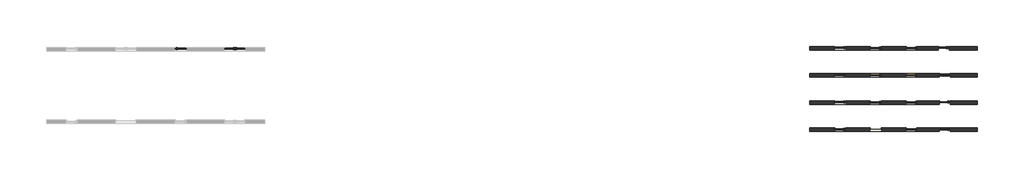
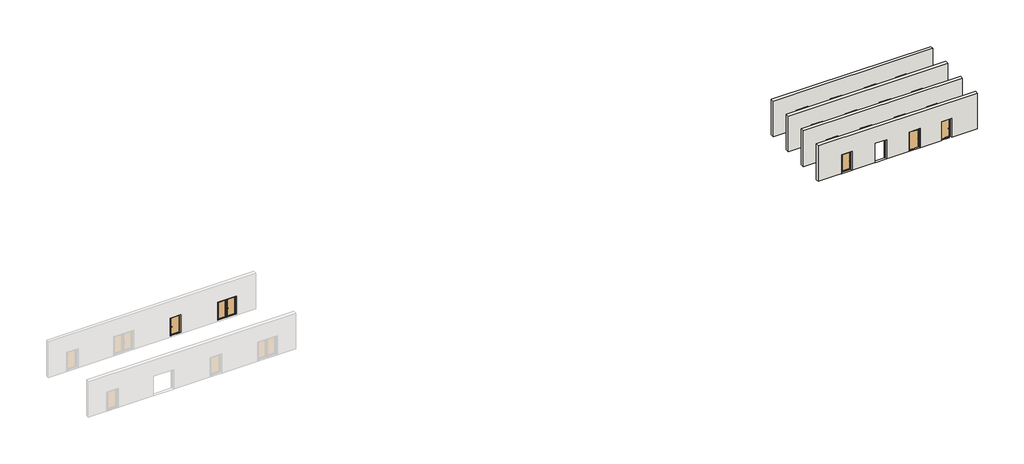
# One storey, part 2 of 2: 17 doors, 4 walls.
"""IFC4 building model written with IfcOpenShell, lengths in millimetres."""

from ifc_helpers import new_model, si_unit, origin, place, context, project, spatial, faceted_brep, transform, mapped, element, save
from components import door_eac2dd04, door_43a200b4, door_fae9e560, door_9f9e6a1d, door_a939d6f6, door_66f3c2dc, door_febc1c80, door_22224a55, door_e4422ea3, door_7a2a8935, door_3701fab0, door_3bcb3462, door_040fce94, door_be1d781f, door_1cca69b3, door_032f7541, door_b22b6475

model = new_model("IFC4")

# Units and contexts
model_context = context("Model", 3, world=origin())
ifc_project = project(units=[si_unit("LENGTHUNIT", "METRE", prefix="MILLI")], contexts=[model_context])

# Site, building, storey
site = spatial("IfcSite", under=ifc_project)
building = spatial("IfcBuilding", under=site)
storey = spatial("IfcBuildingStorey", under=building, Name="REY 01 - Overview Doors", Elevation=0.0)

# Doors
placement = place(None, origin())
door_shape = door_eac2dd04(model_context)
element("IfcDoor", 1, ObjectType="Reynaers_MasterLine 8_Door_Miter_Inward Opening_Single Vent : Reynaers_MasterLine 8_Door_Miter_Inward Opening_Single Vent", at=placement, inside=storey, context=model_context, shape_type="MappedRepresentation", body=[
    mapped(door_shape, transform((71021.8247656, 9484.5590232, 0.0), x_axis=(-1.0, 0.0, 0.0), y_axis=(0.0, -1.0, 0.0), z_axis=(0.0, 0.0, 1.0))),
])
door_2_shape = door_43a200b4(model_context)
element("IfcDoor", 2, ObjectType="Reynaers_MasterLine 8_Door_Miter_Inward Opening_Single Vent : Reynaers_MasterLine 8_Door_Miter_Inward Opening_Single Vent", at=placement, inside=storey, context=model_context, shape_type="MappedRepresentation", body=[
    mapped(door_2_shape, transform((71021.8247656, 6734.5590232, 0.0), x_axis=(-1.0, 0.0, 0.0), y_axis=(0.0, -1.0, 0.0), z_axis=(0.0, 0.0, 1.0))),
])
door_3_shape = door_fae9e560(model_context)
element("IfcDoor", 3, ObjectType="Reynaers_MasterLine 8_Door_Miter_Inward Opening_Single Vent : Reynaers_MasterLine 8_Door_Miter_Inward Opening_Single Vent", at=placement, inside=storey, context=model_context, shape_type="MappedRepresentation", body=[
    mapped(door_3_shape, transform((71021.8247656, 3984.5590232, 0.0), x_axis=(-1.0, 0.0, 0.0), y_axis=(0.0, -1.0, 0.0), z_axis=(0.0, 0.0, 1.0))),
])
door_4_shape = door_9f9e6a1d(model_context)
element("IfcDoor", 4, ObjectType="Reynaers_MasterLine 8_Door_Miter_Inward Opening_Single Vent : Reynaers_MasterLine 8_Door_Miter_Inward Opening_Single Vent", at=placement, inside=storey, context=model_context, shape_type="MappedRepresentation", body=[
    mapped(door_4_shape, transform((71021.8247656, 1234.5590232, 0.0), x_axis=(-1.0, 0.0, 0.0), y_axis=(0.0, -1.0, 0.0), z_axis=(0.0, 0.0, 1.0))),
])
door_5_shape = door_a939d6f6(model_context)
element("IfcDoor", 5, ObjectType="Reynaers_MasterLine 8_Door_Miter_Outward Opening_Double Vent : Reynaers_MasterLine 8_Door_Miter_Outward Opening_Double Vent", at=placement, inside=storey, context=model_context, shape_type="MappedRepresentation", body=[
    mapped(door_5_shape, transform((9971.8247656, 9435.7590232, 0.0), x_axis=(1.0, 0.0, 0.0), y_axis=(0.0, 1.0, 0.0), z_axis=(0.0, 0.0, 1.0))),
])
door_6_shape = door_66f3c2dc(model_context)
element("IfcDoor", 6, ObjectType="Reynaers_MasterLine 8_Door_Miter_Outward Opening_Single Vent : Reynaers_MasterLine 8_Door_Miter_Outward Opening_Single Vent", at=placement, inside=storey, context=model_context, shape_type="MappedRepresentation", body=[
    mapped(door_6_shape, transform((4521.8247656, 9425.7590232, 0.0), x_axis=(1.0, 0.0, 0.0), y_axis=(0.0, 1.0, 0.0), z_axis=(0.0, 0.0, 1.0))),
])
door_7_shape = door_febc1c80(model_context)
element("IfcDoor", 7, ObjectType="Reynaers_MasterLine 8_Door_Panel_Inward Opening_Single Vent_Double Sided : Reynaers_MasterLine 8_Door_Panel_Inward Opening_Single Vent_Double Sided", at=placement, inside=storey, context=model_context, shape_type="MappedRepresentation", body=[
    mapped(door_7_shape, transform((78221.8247656, 9535.7590232, 0.0), x_axis=(1.0, 0.0, 0.0), y_axis=(0.0, 1.0, 0.0), z_axis=(0.0, 0.0, 1.0))),
])
door_8_shape = door_22224a55(model_context)
element("IfcDoor", 8, ObjectType="Reynaers_MasterLine 8_Door_Panel_Inward Opening_Single Vent_Double Sided : Reynaers_MasterLine 8_Door_Panel_Inward Opening_Single Vent_Double Sided", at=placement, inside=storey, context=model_context, shape_type="MappedRepresentation", body=[
    mapped(door_8_shape, transform((78221.8247656, 6785.7590232, 0.0), x_axis=(1.0, 0.0, 0.0), y_axis=(0.0, 1.0, 0.0), z_axis=(0.0, 0.0, 1.0))),
])
door_9_shape = door_e4422ea3(model_context)
element("IfcDoor", 9, ObjectType="Reynaers_MasterLine 8_Door_Panel_Inward Opening_Single Vent_Double Sided : Reynaers_MasterLine 8_Door_Panel_Inward Opening_Single Vent_Double Sided", at=placement, inside=storey, context=model_context, shape_type="MappedRepresentation", body=[
    mapped(door_9_shape, transform((78221.8247656, 4035.7590232, 0.0), x_axis=(1.0, 0.0, 0.0), y_axis=(0.0, 1.0, 0.0), z_axis=(0.0, 0.0, 1.0))),
])
door_10_shape = door_7a2a8935(model_context)
element("IfcDoor", 10, ObjectType="Reynaers_MasterLine 8_Door_Panel_Inward Opening_Single Vent_Double Sided : Reynaers_MasterLine 8_Door_Panel_Inward Opening_Single Vent_Double Sided", at=placement, inside=storey, context=model_context, shape_type="MappedRepresentation", body=[
    mapped(door_10_shape, transform((78221.8247656, 1285.7590232, 0.0), x_axis=(1.0, 0.0, 0.0), y_axis=(0.0, 1.0, 0.0), z_axis=(0.0, 0.0, 1.0))),
])
door_11_shape = door_3701fab0(model_context)
element("IfcDoor", 11, ObjectType="Reynaers_MasterLine 8_Door_Pivot_Inward Opening_Single Vent_Glass : Reynaers_MasterLine 8_Door_Pivot_Inward Opening_Single Vent_Glass", at=placement, inside=storey, context=model_context, shape_type="MappedRepresentation", body=[
    mapped(door_11_shape, transform((81571.8247656, 6785.7590232, 0.0), x_axis=(-1.0, 0.0, 0.0), y_axis=(0.0, -1.0, 0.0), z_axis=(0.0, 0.0, 1.0))),
])
door_12_shape = door_3bcb3462(model_context)
element("IfcDoor", 12, ObjectType="Reynaers_MasterLine 8_Door_Pivot_Inward Opening_Single Vent_Glass : Reynaers_MasterLine 8_Door_Pivot_Inward Opening_Single Vent_Glass", at=placement, inside=storey, context=model_context, shape_type="MappedRepresentation", body=[
    mapped(door_12_shape, transform((81471.8247656, 9535.7590232, 0.0), x_axis=(-1.0, 0.0, 0.0), y_axis=(0.0, -1.0, 0.0), z_axis=(0.0, 0.0, 1.0))),
])
door_13_shape = door_040fce94(model_context)
element("IfcDoor", 13, ObjectType="Reynaers_MasterLine 8_Door_Pivot_Inward Opening_Single Vent_Panel : Reynaers_MasterLine 8_Door_Pivot_Inward Opening_Single Vent_Panel", at=placement, inside=storey, context=model_context, shape_type="MappedRepresentation", body=[
    mapped(door_13_shape, transform((81571.8247656, 4088.7590232, 0.0), x_axis=(-1.0, 0.0, 0.0), y_axis=(0.0, -1.0, 0.0), z_axis=(0.0, 0.0, 1.0))),
])
door_14_shape = door_be1d781f(model_context)
element("IfcDoor", 14, ObjectType="Reynaers_MasterLine 8_Door_Pivot_Inward Opening_Single Vent_Panel : Reynaers_MasterLine 8_Door_Pivot_Inward Opening_Single Vent_Panel", at=placement, inside=storey, context=model_context, shape_type="MappedRepresentation", body=[
    mapped(door_14_shape, transform((81571.8247656, 1338.7590232, 0.0), x_axis=(-1.0, 0.0, 0.0), y_axis=(0.0, -1.0, 0.0), z_axis=(0.0, 0.0, 1.0))),
])
door_15_shape = door_1cca69b3(model_context)
element("IfcDoor", 15, ObjectType="Reynaers_MasterLine 8_Door_Plinth_Inward Opening_Single Vent : Reynaers_MasterLine 8_Door_Plinth_Inward Opening_Single Vent", at=placement, inside=storey, context=model_context, shape_type="MappedRepresentation", body=[
    mapped(door_15_shape, transform((74621.8247656, 9524.5590232, 0.0), x_axis=(1.0, 0.0, 0.0), y_axis=(0.0, 1.0, 0.0), z_axis=(0.0, 0.0, 1.0))),
])
door_16_shape = door_032f7541(model_context)
element("IfcDoor", 16, ObjectType="Reynaers_MasterLine 8_Door_Plinth_Inward Opening_Single Vent : Reynaers_MasterLine 8_Door_Plinth_Inward Opening_Single Vent", at=placement, inside=storey, context=model_context, shape_type="MappedRepresentation", body=[
    mapped(door_16_shape, transform((74621.8247656, 6774.5590232, 0.0), x_axis=(1.0, 0.0, 0.0), y_axis=(0.0, 1.0, 0.0), z_axis=(0.0, 0.0, 1.0))),
])
door_17_shape = door_b22b6475(model_context)
element("IfcDoor", 17, ObjectType="Reynaers_MasterLine 8_Door_Plinth_Inward Opening_Single Vent : Reynaers_MasterLine 8_Door_Plinth_Inward Opening_Single Vent", at=placement, inside=storey, context=model_context, shape_type="MappedRepresentation", body=[
    mapped(door_17_shape, transform((74621.8247656, 4024.5590232, 0.0), x_axis=(1.0, 0.0, 0.0), y_axis=(0.0, 1.0, 0.0), z_axis=(0.0, 0.0, 1.0))),
])

# Walls
element("IfcWall", 18, ObjectType="21_SPM_90-30-80-140-10", at=placement, inside=storey, context=model_context, shape_type="Brep", body=[
    faceted_brep([(84871.8247656, 6610.7590232, 0.0), (84871.8247656, 6610.7590232, 4000.0), (67971.8247656, 6610.7590232, 4000.0), (67971.8247656, 6610.7590232, 0.0), (81021.8247656, 6610.7590232, 0.0), (81021.8247656, 6610.7590232, 2150.0), (82121.8247656, 6610.7590232, 2150.0), (82121.8247656, 6610.7590232, 0.0), (70421.8247656, 6610.7590232, 2150.0), (71621.8247656, 6610.7590232, 2150.0), (71621.8247656, 6610.7590232, 1.0), (70421.8247656, 6610.7590232, 1.0), (74021.8247656, 6610.7590232, 2150.0), (75221.8247656, 6610.7590232, 2150.0), (75221.8247656, 6610.7590232, 1.0), (74021.8247656, 6610.7590232, 1.0), (77621.8247656, 6610.7590232, 2150.0), (78821.8247656, 6610.7590232, 2150.0), (78821.8247656, 6610.7590232, 1.0), (77621.8247656, 6610.7590232, 1.0), (84871.8247656, 6960.7590232, 4000.0), (84871.8247656, 6960.7590232, 0.0), (82071.8247656, 6960.7590232, 0.0), (82071.8247656, 6960.7590232, 2100.0), (81071.8247656, 6960.7590232, 2100.0), (81071.8247656, 6960.7590232, 0.0), (78771.8247656, 6960.7590232, 0.0), (78771.8247656, 6960.7590232, 2100.0), (77671.8247656, 6960.7590232, 2100.0), (77671.8247656, 6960.7590232, 0.0), (75171.8247656, 6960.7590232, 0.0), (75171.8247656, 6960.7590232, 2100.0), (74071.8247656, 6960.7590232, 2100.0), (74071.8247656, 6960.7590232, 0.0), (71571.8247656, 6960.7590232, 0.0), (71571.8247656, 6960.7590232, 2100.0), (70471.8247656, 6960.7590232, 2100.0), (70471.8247656, 6960.7590232, 0.0), (67971.8247656, 6960.7590232, 0.0), (67971.8247656, 6960.7590232, 4000.0), (82121.8247656, 6870.7590232, 0.0), (82071.8247656, 6870.7590232, 0.0), (70471.8247656, 6870.7590232, 0.0), (71571.8247656, 6870.7590232, 0.0), (74071.8247656, 6833.2590232, 0.0), (75171.8247656, 6833.2590232, 0.0), (77671.8247656, 6833.2590232, 0.0), (78771.8247656, 6833.2590232, 0.0), (81071.8247656, 6870.7590232, 0.0), (81021.8247656, 6870.7590232, 0.0), (71571.8247656, 6870.7590232, 2100.0), (70471.8247656, 6870.7590232, 2100.0), (71571.8247656, 6870.7590232, 1.0), (70471.8247656, 6870.7590232, 1.0), (70421.8247656, 6870.7590232, 2150.0), (71621.8247656, 6870.7590232, 2150.0), (70421.8247656, 6870.7590232, 1.0), (71621.8247656, 6870.7590232, 1.0), (75171.8247656, 6833.2590232, 2100.0), (74071.8247656, 6833.2590232, 2100.0), (74071.8247656, 6833.2590232, 1.0), (75171.8247656, 6833.2590232, 1.0), (75221.8247656, 6833.2590232, 2150.0), (74021.8247656, 6833.2590232, 2150.0), (74021.8247656, 6833.2590232, 1.0), (75221.8247656, 6833.2590232, 1.0), (77671.8247656, 6833.2590232, 2100.0), (78771.8247656, 6833.2590232, 2100.0), (77671.8247656, 6833.2590232, 1.0), (78771.8247656, 6833.2590232, 1.0), (77621.8247656, 6833.2590232, 2150.0), (78821.8247656, 6833.2590232, 2150.0), (77621.8247656, 6833.2590232, 1.0), (78821.8247656, 6833.2590232, 1.0), (82071.8247656, 6870.7590232, 2100.0), (81071.8247656, 6870.7590232, 2100.0), (81021.8247656, 6870.7590232, 2150.0), (82121.8247656, 6870.7590232, 2150.0)], [[[0, 1, 2, 3, 4, 5, 6, 7], [8, 9, 10, 11], [12, 13, 14, 15], [16, 17, 18, 19]], [[20, 21, 22, 23, 24, 25, 26, 27, 28, 29, 30, 31, 32, 33, 34, 35, 36, 37, 38, 39]], [[21, 0, 7, 40, 41, 22]], [[3, 38, 37, 42, 43, 34, 33, 44, 45, 30, 29, 46, 47, 26, 25, 48, 49, 4]], [[1, 0, 21, 20]], [[2, 1, 20, 39]], [[3, 2, 39, 38]], [[35, 50, 51, 36]], [[50, 35, 34, 43, 52]], [[52, 43, 42, 53]], [[36, 51, 53, 42, 37]], [[54, 55, 9, 8]], [[52, 53, 56, 11, 10, 57]], [[51, 50, 52, 57, 55, 54, 56, 53]], [[9, 55, 57, 10]], [[54, 8, 11, 56]], [[31, 58, 59, 32]], [[32, 59, 60, 44, 33]], [[44, 60, 61, 45]], [[58, 31, 30, 45, 61]], [[62, 13, 12, 63]], [[61, 60, 64, 15, 14, 65]], [[59, 58, 61, 65, 62, 63, 64, 60]], [[63, 12, 15, 64]], [[13, 62, 65, 14]], [[66, 28, 27, 67]], [[28, 66, 68, 46, 29]], [[46, 68, 69, 47]], [[67, 27, 26, 47, 69]], [[70, 71, 17, 16]], [[69, 68, 72, 19, 18, 73]], [[66, 67, 69, 73, 71, 70, 72, 68]], [[70, 16, 19, 72]], [[17, 71, 73, 18]], [[23, 74, 75, 24]], [[74, 23, 22, 41]], [[24, 75, 48, 25]], [[76, 77, 6, 5]], [[75, 74, 41, 40, 77, 76, 49, 48]], [[6, 77, 40, 7]], [[76, 5, 4, 49]]]),
])
element("IfcWall", 19, ObjectType="21_SPM_90-30-80-140-10", at=placement, inside=storey, context=model_context, shape_type="Brep", body=[
    faceted_brep([(84871.8247656, 9360.7590232, 0.0), (84871.8247656, 9360.7590232, 4000.0), (67971.8247656, 9360.7590232, 4000.0), (67971.8247656, 9360.7590232, 0.0), (80921.8247656, 9360.7590232, 0.0), (80921.8247656, 9360.7590232, 2150.0), (82021.8247656, 9360.7590232, 2150.0), (82021.8247656, 9360.7590232, 0.0), (70421.8247656, 9360.7590232, 2150.0), (71621.8247656, 9360.7590232, 2150.0), (71621.8247656, 9360.7590232, 1.0), (70421.8247656, 9360.7590232, 1.0), (74021.8247656, 9360.7590232, 2150.0), (75221.8247656, 9360.7590232, 2150.0), (75221.8247656, 9360.7590232, 1.0), (74021.8247656, 9360.7590232, 1.0), (77621.8247656, 9360.7590232, 2150.0), (78821.8247656, 9360.7590232, 2150.0), (78821.8247656, 9360.7590232, 1.0), (77621.8247656, 9360.7590232, 1.0), (84871.8247656, 9710.7590232, 4000.0), (84871.8247656, 9710.7590232, 0.0), (81971.8247656, 9710.7590232, 0.0), (81971.8247656, 9710.7590232, 2100.0), (80971.8247656, 9710.7590232, 2100.0), (80971.8247656, 9710.7590232, 0.0), (78771.8247656, 9710.7590232, 0.0), (78771.8247656, 9710.7590232, 2100.0), (77671.8247656, 9710.7590232, 2100.0), (77671.8247656, 9710.7590232, 0.0), (75171.8247656, 9710.7590232, 0.0), (75171.8247656, 9710.7590232, 2100.0), (74071.8247656, 9710.7590232, 2100.0), (74071.8247656, 9710.7590232, 0.0), (71571.8247656, 9710.7590232, 0.0), (71571.8247656, 9710.7590232, 2100.0), (70471.8247656, 9710.7590232, 2100.0), (70471.8247656, 9710.7590232, 0.0), (67971.8247656, 9710.7590232, 0.0), (67971.8247656, 9710.7590232, 4000.0), (82021.8247656, 9620.7590232, 0.0), (81971.8247656, 9620.7590232, 0.0), (70471.8247656, 9620.7590232, 0.0), (71571.8247656, 9620.7590232, 0.0), (74071.8247656, 9583.2590232, 0.0), (75171.8247656, 9583.2590232, 0.0), (77671.8247656, 9583.2590232, 0.0), (78771.8247656, 9583.2590232, 0.0), (80971.8247656, 9620.7590232, 0.0), (80921.8247656, 9620.7590232, 0.0), (71571.8247656, 9620.7590232, 2100.0), (70471.8247656, 9620.7590232, 2100.0), (71571.8247656, 9620.7590232, 1.0), (70471.8247656, 9620.7590232, 1.0), (70421.8247656, 9620.7590232, 2150.0), (71621.8247656, 9620.7590232, 2150.0), (70421.8247656, 9620.7590232, 1.0), (71621.8247656, 9620.7590232, 1.0), (75171.8247656, 9583.2590232, 2100.0), (74071.8247656, 9583.2590232, 2100.0), (74071.8247656, 9583.2590232, 1.0), (75171.8247656, 9583.2590232, 1.0), (75221.8247656, 9583.2590232, 2150.0), (74021.8247656, 9583.2590232, 2150.0), (74021.8247656, 9583.2590232, 1.0), (75221.8247656, 9583.2590232, 1.0), (78771.8247656, 9583.2590232, 2100.0), (77671.8247656, 9583.2590232, 2100.0), (77671.8247656, 9583.2590232, 1.0), (78771.8247656, 9583.2590232, 1.0), (78821.8247656, 9583.2590232, 2150.0), (77621.8247656, 9583.2590232, 2150.0), (77621.8247656, 9583.2590232, 1.0), (78821.8247656, 9583.2590232, 1.0), (81971.8247656, 9620.7590232, 2100.0), (80971.8247656, 9620.7590232, 2100.0), (80921.8247656, 9620.7590232, 2150.0), (82021.8247656, 9620.7590232, 2150.0)], [[[0, 1, 2, 3, 4, 5, 6, 7], [8, 9, 10, 11], [12, 13, 14, 15], [16, 17, 18, 19]], [[20, 21, 22, 23, 24, 25, 26, 27, 28, 29, 30, 31, 32, 33, 34, 35, 36, 37, 38, 39]], [[21, 0, 7, 40, 41, 22]], [[3, 38, 37, 42, 43, 34, 33, 44, 45, 30, 29, 46, 47, 26, 25, 48, 49, 4]], [[1, 0, 21, 20]], [[2, 1, 20, 39]], [[3, 2, 39, 38]], [[35, 50, 51, 36]], [[50, 35, 34, 43, 52]], [[52, 43, 42, 53]], [[36, 51, 53, 42, 37]], [[54, 55, 9, 8]], [[52, 53, 56, 11, 10, 57]], [[51, 50, 52, 57, 55, 54, 56, 53]], [[9, 55, 57, 10]], [[54, 8, 11, 56]], [[31, 58, 59, 32]], [[32, 59, 60, 44, 33]], [[44, 60, 61, 45]], [[58, 31, 30, 45, 61]], [[62, 13, 12, 63]], [[61, 60, 64, 15, 14, 65]], [[59, 58, 61, 65, 62, 63, 64, 60]], [[63, 12, 15, 64]], [[13, 62, 65, 14]], [[27, 66, 67, 28]], [[28, 67, 68, 46, 29]], [[46, 68, 69, 47]], [[66, 27, 26, 47, 69]], [[70, 17, 16, 71]], [[69, 68, 72, 19, 18, 73]], [[67, 66, 69, 73, 70, 71, 72, 68]], [[71, 16, 19, 72]], [[17, 70, 73, 18]], [[23, 74, 75, 24]], [[74, 23, 22, 41]], [[24, 75, 48, 25]], [[76, 77, 6, 5]], [[75, 74, 41, 40, 77, 76, 49, 48]], [[6, 77, 40, 7]], [[76, 5, 4, 49]]]),
])
element("IfcWall", 20, ObjectType="21_SPM_90-30-80-140-10", at=placement, inside=storey, context=model_context, shape_type="Brep", body=[
    faceted_brep([(84871.8247656, 3860.7590232, 0.0), (84871.8247656, 3860.7590232, 4000.0), (67971.8247656, 3860.7590232, 4000.0), (67971.8247656, 3860.7590232, 0.0), (81021.8247656, 3860.7590232, 0.0), (81021.8247656, 3860.7590232, 2150.0), (82121.8247656, 3860.7590232, 2150.0), (82121.8247656, 3860.7590232, 0.0), (70421.8247656, 3860.7590232, 2150.0), (71621.8247656, 3860.7590232, 2150.0), (71621.8247656, 3860.7590232, 1.0), (70421.8247656, 3860.7590232, 1.0), (74021.8247656, 3860.7590232, 2150.0), (75221.8247656, 3860.7590232, 2150.0), (75221.8247656, 3860.7590232, 1.0), (74021.8247656, 3860.7590232, 1.0), (77621.8247656, 3860.7590232, 2150.0), (78821.8247656, 3860.7590232, 2150.0), (78821.8247656, 3860.7590232, 1.0), (77621.8247656, 3860.7590232, 1.0), (84871.8247656, 4210.7590232, 4000.0), (84871.8247656, 4210.7590232, 0.0), (82071.8247656, 4210.7590232, 0.0), (82071.8247656, 4210.7590232, 2100.0), (81071.8247656, 4210.7590232, 2100.0), (81071.8247656, 4210.7590232, 0.0), (78771.8247656, 4210.7590232, 0.0), (78771.8247656, 4210.7590232, 2100.0), (77671.8247656, 4210.7590232, 2100.0), (77671.8247656, 4210.7590232, 0.0), (75171.8247656, 4210.7590232, 0.0), (75171.8247656, 4210.7590232, 2100.0), (74071.8247656, 4210.7590232, 2100.0), (74071.8247656, 4210.7590232, 0.0), (71571.8247656, 4210.7590232, 0.0), (71571.8247656, 4210.7590232, 2100.0), (70471.8247656, 4210.7590232, 2100.0), (70471.8247656, 4210.7590232, 0.0), (67971.8247656, 4210.7590232, 0.0), (67971.8247656, 4210.7590232, 4000.0), (82121.8247656, 4120.7590232, 0.0), (82071.8247656, 4120.7590232, 0.0), (70471.8247656, 4120.7590232, 0.0), (71571.8247656, 4120.7590232, 0.0), (74071.8247656, 4083.2590232, 0.0), (75171.8247656, 4083.2590232, 0.0), (77671.8247656, 4083.2590232, 0.0), (78771.8247656, 4083.2590232, 0.0), (81071.8247656, 4120.7590232, 0.0), (81021.8247656, 4120.7590232, 0.0), (71571.8247656, 4120.7590232, 2100.0), (70471.8247656, 4120.7590232, 2100.0), (71571.8247656, 4120.7590232, 1.0), (70471.8247656, 4120.7590232, 1.0), (70421.8247656, 4120.7590232, 2150.0), (71621.8247656, 4120.7590232, 2150.0), (70421.8247656, 4120.7590232, 1.0), (71621.8247656, 4120.7590232, 1.0), (75171.8247656, 4083.2590232, 2100.0), (74071.8247656, 4083.2590232, 2100.0), (74071.8247656, 4083.2590232, 1.0), (75171.8247656, 4083.2590232, 1.0), (75221.8247656, 4083.2590232, 2150.0), (74021.8247656, 4083.2590232, 2150.0), (74021.8247656, 4083.2590232, 1.0), (75221.8247656, 4083.2590232, 1.0), (78771.8247656, 4083.2590232, 2100.0), (77671.8247656, 4083.2590232, 2100.0), (77671.8247656, 4083.2590232, 1.0), (78771.8247656, 4083.2590232, 1.0), (78821.8247656, 4083.2590232, 2150.0), (77621.8247656, 4083.2590232, 2150.0), (77621.8247656, 4083.2590232, 1.0), (78821.8247656, 4083.2590232, 1.0), (82071.8247656, 4120.7590232, 2100.0), (81071.8247656, 4120.7590232, 2100.0), (81021.8247656, 4120.7590232, 2150.0), (82121.8247656, 4120.7590232, 2150.0)], [[[0, 1, 2, 3, 4, 5, 6, 7], [8, 9, 10, 11], [12, 13, 14, 15], [16, 17, 18, 19]], [[20, 21, 22, 23, 24, 25, 26, 27, 28, 29, 30, 31, 32, 33, 34, 35, 36, 37, 38, 39]], [[21, 0, 7, 40, 41, 22]], [[3, 38, 37, 42, 43, 34, 33, 44, 45, 30, 29, 46, 47, 26, 25, 48, 49, 4]], [[1, 0, 21, 20]], [[2, 1, 20, 39]], [[3, 2, 39, 38]], [[35, 50, 51, 36]], [[50, 35, 34, 43, 52]], [[52, 43, 42, 53]], [[36, 51, 53, 42, 37]], [[54, 55, 9, 8]], [[52, 53, 56, 11, 10, 57]], [[51, 50, 52, 57, 55, 54, 56, 53]], [[9, 55, 57, 10]], [[54, 8, 11, 56]], [[31, 58, 59, 32]], [[32, 59, 60, 44, 33]], [[44, 60, 61, 45]], [[58, 31, 30, 45, 61]], [[62, 13, 12, 63]], [[61, 60, 64, 15, 14, 65]], [[59, 58, 61, 65, 62, 63, 64, 60]], [[63, 12, 15, 64]], [[13, 62, 65, 14]], [[27, 66, 67, 28]], [[28, 67, 68, 46, 29]], [[46, 68, 69, 47]], [[66, 27, 26, 47, 69]], [[70, 17, 16, 71]], [[69, 68, 72, 19, 18, 73]], [[67, 66, 69, 73, 70, 71, 72, 68]], [[71, 16, 19, 72]], [[17, 70, 73, 18]], [[23, 74, 75, 24]], [[74, 23, 22, 41]], [[24, 75, 48, 25]], [[76, 77, 6, 5]], [[75, 74, 41, 40, 77, 76, 49, 48]], [[6, 77, 40, 7]], [[76, 5, 4, 49]]]),
])
element("IfcWall", 21, ObjectType="21_SPM_90-30-80-140-10", at=placement, inside=storey, context=model_context, shape_type="Brep", body=[
    faceted_brep([(84871.8247656, 1110.7590232, 0.0), (84871.8247656, 1110.7590232, 4000.0), (67971.8247656, 1110.7590232, 4000.0), (67971.8247656, 1110.7590232, 0.0), (81021.8247656, 1110.7590232, 0.0), (81021.8247656, 1110.7590232, 2150.0), (82121.8247656, 1110.7590232, 2150.0), (82121.8247656, 1110.7590232, 0.0), (71571.8247656, 1110.7590232, 1.0), (70471.8247656, 1110.7590232, 1.0), (70471.8247656, 1110.7590232, 2100.0), (71571.8247656, 1110.7590232, 2100.0), (74021.8247656, 1110.7590232, 2150.0), (75221.8247656, 1110.7590232, 2150.0), (75221.8247656, 1110.7590232, 1.0), (74021.8247656, 1110.7590232, 1.0), (77621.8247656, 1110.7590232, 2150.0), (78821.8247656, 1110.7590232, 2150.0), (78821.8247656, 1110.7590232, 1.0), (77621.8247656, 1110.7590232, 1.0), (84871.8247656, 1460.7590232, 4000.0), (84871.8247656, 1460.7590232, 0.0), (82071.8247656, 1460.7590232, 0.0), (82071.8247656, 1460.7590232, 2100.0), (81071.8247656, 1460.7590232, 2100.0), (81071.8247656, 1460.7590232, 0.0), (78771.8247656, 1460.7590232, 0.0), (78771.8247656, 1460.7590232, 2100.0), (77671.8247656, 1460.7590232, 2100.0), (77671.8247656, 1460.7590232, 0.0), (75171.8247656, 1460.7590232, 0.0), (75171.8247656, 1460.7590232, 2100.0), (74071.8247656, 1460.7590232, 2100.0), (74071.8247656, 1460.7590232, 0.0), (71571.8247656, 1460.7590232, 0.0), (71571.8247656, 1460.7590232, 2100.0), (70471.8247656, 1460.7590232, 2100.0), (70471.8247656, 1460.7590232, 0.0), (67971.8247656, 1460.7590232, 0.0), (67971.8247656, 1460.7590232, 4000.0), (82121.8247656, 1370.7590232, 0.0), (82071.8247656, 1370.7590232, 0.0), (70471.8247656, 1260.7590232, 0.0), (71571.8247656, 1260.7590232, 0.0), (74071.8247656, 1333.2590232, 0.0), (75171.8247656, 1333.2590232, 0.0), (77671.8247656, 1333.2590232, 0.0), (78771.8247656, 1333.2590232, 0.0), (81071.8247656, 1370.7590232, 0.0), (81021.8247656, 1370.7590232, 0.0), (71571.8247656, 1260.7590232, 1.0), (70471.8247656, 1260.7590232, 1.0), (75171.8247656, 1333.2590232, 2100.0), (74071.8247656, 1333.2590232, 2100.0), (74071.8247656, 1333.2590232, 1.0), (75171.8247656, 1333.2590232, 1.0), (75221.8247656, 1333.2590232, 2150.0), (74021.8247656, 1333.2590232, 2150.0), (74021.8247656, 1333.2590232, 1.0), (75221.8247656, 1333.2590232, 1.0), (77671.8247656, 1333.2590232, 2100.0), (78771.8247656, 1333.2590232, 2100.0), (77671.8247656, 1333.2590232, 1.0), (78771.8247656, 1333.2590232, 1.0), (77621.8247656, 1333.2590232, 2150.0), (78821.8247656, 1333.2590232, 2150.0), (77621.8247656, 1333.2590232, 1.0), (78821.8247656, 1333.2590232, 1.0), (82071.8247656, 1370.7590232, 2100.0), (81071.8247656, 1370.7590232, 2100.0), (81021.8247656, 1370.7590232, 2150.0), (82121.8247656, 1370.7590232, 2150.0)], [[[0, 1, 2, 3, 4, 5, 6, 7], [8, 9, 10, 11], [12, 13, 14, 15], [16, 17, 18, 19]], [[20, 21, 22, 23, 24, 25, 26, 27, 28, 29, 30, 31, 32, 33, 34, 35, 36, 37, 38, 39]], [[21, 0, 7, 40, 41, 22]], [[3, 38, 37, 42, 43, 34, 33, 44, 45, 30, 29, 46, 47, 26, 25, 48, 49, 4]], [[1, 0, 21, 20]], [[2, 1, 20, 39]], [[3, 2, 39, 38]], [[36, 35, 11, 10]], [[43, 50, 8, 11, 35, 34]], [[50, 43, 42, 51]], [[51, 42, 37, 36, 10, 9]], [[50, 51, 9, 8]], [[31, 52, 53, 32]], [[32, 53, 54, 44, 33]], [[44, 54, 55, 45]], [[52, 31, 30, 45, 55]], [[56, 13, 12, 57]], [[55, 54, 58, 15, 14, 59]], [[53, 52, 55, 59, 56, 57, 58, 54]], [[57, 12, 15, 58]], [[13, 56, 59, 14]], [[60, 28, 27, 61]], [[28, 60, 62, 46, 29]], [[46, 62, 63, 47]], [[61, 27, 26, 47, 63]], [[64, 65, 17, 16]], [[63, 62, 66, 19, 18, 67]], [[60, 61, 63, 67, 65, 64, 66, 62]], [[64, 16, 19, 66]], [[17, 65, 67, 18]], [[23, 68, 69, 24]], [[68, 23, 22, 41]], [[24, 69, 48, 25]], [[70, 71, 6, 5]], [[69, 68, 41, 40, 71, 70, 49, 48]], [[6, 71, 40, 7]], [[70, 5, 4, 49]]]),
])

save(model, "model.ifc")
